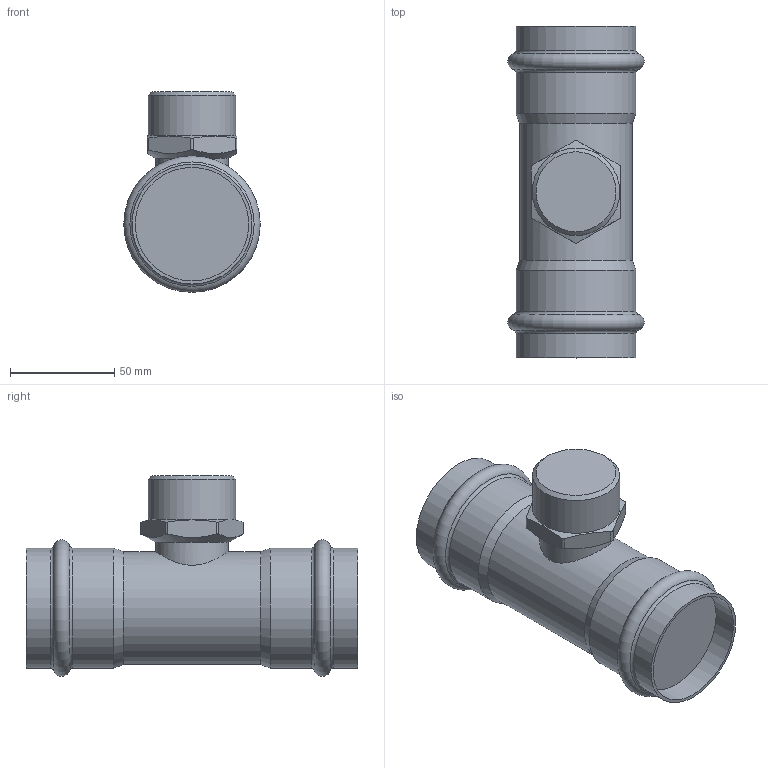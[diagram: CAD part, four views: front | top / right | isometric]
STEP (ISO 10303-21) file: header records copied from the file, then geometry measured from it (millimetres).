
FILE_DESCRIPTION(('STEP AP203'), '1');
FILE_NAME('VTi.933.I.540754', '', ('UNSPECIFIED'), ('UNSPECIFIED'), 'C3D Converter', 'C3D Toolkit', '');
FILE_SCHEMA(('CONFIG_CONTROL_DESIGN'));
Length unit declared in the file: millimetre
Bounding box: 65.38 x 159 x 96.19 mm (x, y, z)
Volume: 396943.8 mm3; surface area: 44815.9 mm2
Topology: 1 solids, 1 shells, 37 faces, 84 edges, 51 vertices
Faces by surface type: cylinder 15, plane 11, torus 6, cone 5
Full cylindrical faces by diameter (mm): 35 x1, 41.91 x1, 54 x1, 54.4 x2, 57.4 x4
Entity records: 2060 total; most frequent: CARTESIAN_POINT 1312, DIRECTION 134, ORIENTED_EDGE 126, EDGE_CURVE 63, AXIS2_PLACEMENT_3D 61, EDGE_LOOP 60, VERTEX_POINT 51, ADVANCED_FACE 37
